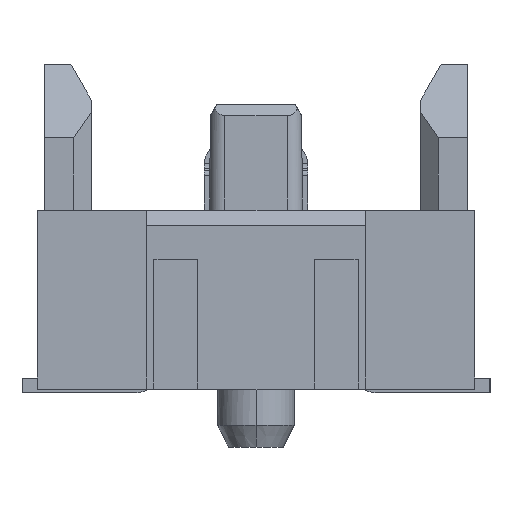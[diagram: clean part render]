
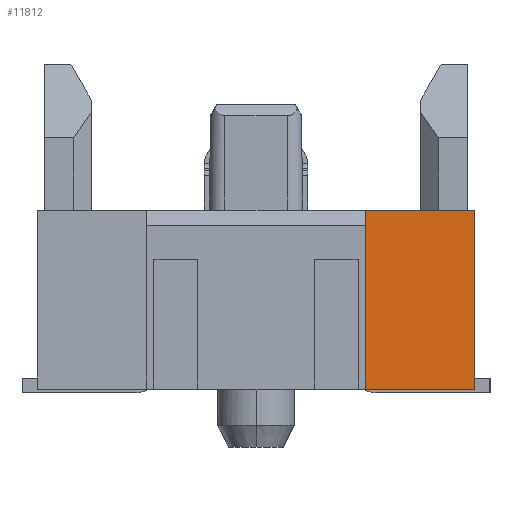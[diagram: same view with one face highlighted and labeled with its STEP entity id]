
A CAD part, left-side view. The second image highlights one B-rep face of the part: STEP entity #11812.
In plain terms, the highlighted planar face has unit normal (-1, 0, 0).
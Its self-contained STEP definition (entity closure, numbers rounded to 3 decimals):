
#1862 = LINE ( 'NONE', #53216, #71582 ) ;
#4151 = AXIS2_PLACEMENT_3D ( 'NONE', #54816, #37426, #60001 ) ;
#8005 = EDGE_CURVE ( 'NONE', #47429, #64592, #31123, .T. ) ;
#9701 = PLANE ( 'NONE',  #4151 ) ;
#11812 = ADVANCED_FACE ( 'NONE', ( #14902 ), #9701, .F. ) ;
#13313 = ORIENTED_EDGE ( 'NONE', *, *, #39398, .T. ) ;
#14902 = FACE_OUTER_BOUND ( 'NONE', #58083, .T. ) ;
#17360 = CARTESIAN_POINT ( 'NONE',  ( -31.65, -3., -2.225 ) ) ;
#19307 = CARTESIAN_POINT ( 'NONE',  ( -31.65, -1.5, 0.225 ) ) ;
#19704 = VERTEX_POINT ( 'NONE', #17360 ) ;
#22149 = VECTOR ( 'NONE', #42591, 1000. ) ;
#25111 = DIRECTION ( 'NONE',  ( 0., 0., 1. ) ) ;
#29463 = ORIENTED_EDGE ( 'NONE', *, *, #66728, .T. ) ;
#29906 = VECTOR ( 'NONE', #44829, 1000. ) ;
#31123 = LINE ( 'NONE', #19307, #22149 ) ;
#31891 = ORIENTED_EDGE ( 'NONE', *, *, #61147, .F. ) ;
#32322 = LINE ( 'NONE', #43435, #36592 ) ;
#33030 = CARTESIAN_POINT ( 'NONE',  ( -31.65, -1.5, 0.225 ) ) ;
#33351 = CARTESIAN_POINT ( 'NONE',  ( -31.65, -3., -2.225 ) ) ;
#36592 = VECTOR ( 'NONE', #53799, 1000. ) ;
#37426 = DIRECTION ( 'NONE',  ( 1., 0., 0. ) ) ;
#39398 = EDGE_CURVE ( 'NONE', #19704, #64592, #51097, .T. ) ;
#42591 = DIRECTION ( 'NONE',  ( 0., -1., 0. ) ) ;
#42628 = CARTESIAN_POINT ( 'NONE',  ( -31.65, -1.5, -2.225 ) ) ;
#43435 = CARTESIAN_POINT ( 'NONE',  ( -31.65, -1.5, -2.225 ) ) ;
#44829 = DIRECTION ( 'NONE',  ( 0., 0., 1. ) ) ;
#45635 = CARTESIAN_POINT ( 'NONE',  ( -31.65, -3., 0.225 ) ) ;
#47429 = VERTEX_POINT ( 'NONE', #33030 ) ;
#51097 = LINE ( 'NONE', #33351, #29906 ) ;
#53216 = CARTESIAN_POINT ( 'NONE',  ( -31.65, -1.5, -2.225 ) ) ;
#53799 = DIRECTION ( 'NONE',  ( 0., -1., 0. ) ) ;
#54816 = CARTESIAN_POINT ( 'NONE',  ( -31.65, -2.25, -1.5 ) ) ;
#58083 = EDGE_LOOP ( 'NONE', ( #29463, #13313, #70690, #31891 ) ) ;
#60001 = DIRECTION ( 'NONE',  ( 0., 1., 0. ) ) ;
#60775 = VERTEX_POINT ( 'NONE', #42628 ) ;
#61147 = EDGE_CURVE ( 'NONE', #60775, #47429, #1862, .T. ) ;
#64592 = VERTEX_POINT ( 'NONE', #45635 ) ;
#66728 = EDGE_CURVE ( 'NONE', #60775, #19704, #32322, .T. ) ;
#70690 = ORIENTED_EDGE ( 'NONE', *, *, #8005, .F. ) ;
#71582 = VECTOR ( 'NONE', #25111, 1000. ) ;
